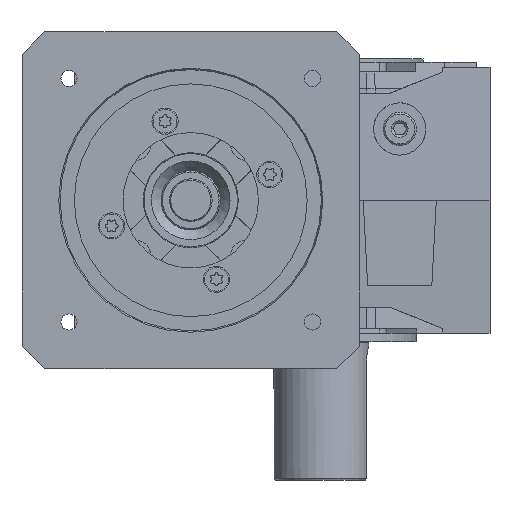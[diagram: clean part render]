
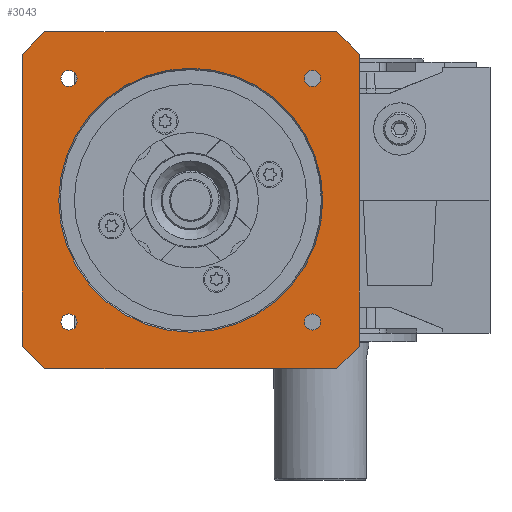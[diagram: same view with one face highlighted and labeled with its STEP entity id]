
A CAD part, left-side view. The second image highlights one B-rep face of the part: STEP entity #3043.
In plain terms, the highlighted planar face has unit normal (-1, 0, 0).
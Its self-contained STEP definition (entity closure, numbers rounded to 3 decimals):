
#3043 = ADVANCED_FACE( '', ( #6529, #6530, #6531, #6532, #6533, #6534 ), #6535, .T. );
#6529 = FACE_BOUND( '', #11230, .T. );
#6530 = FACE_BOUND( '', #11231, .T. );
#6531 = FACE_BOUND( '', #11232, .T. );
#6532 = FACE_BOUND( '', #11233, .T. );
#6533 = FACE_BOUND( '', #11234, .T. );
#6534 = FACE_OUTER_BOUND( '', #11235, .T. );
#6535 = PLANE( '', #11236 );
#11230 = EDGE_LOOP( '', ( #22420 ) );
#11231 = EDGE_LOOP( '', ( #22421 ) );
#11232 = EDGE_LOOP( '', ( #22422 ) );
#11233 = EDGE_LOOP( '', ( #22423 ) );
#11234 = EDGE_LOOP( '', ( #22424 ) );
#11235 = EDGE_LOOP( '', ( #22425, #22426, #22427, #22428, #22429, #22430, #22431, #22432 ) );
#11236 = AXIS2_PLACEMENT_3D( '', #22433, #22434, #22435 );
#22420 = ORIENTED_EDGE( '', *, *, #26584, .T. );
#22421 = ORIENTED_EDGE( '', *, *, #26615, .T. );
#22422 = ORIENTED_EDGE( '', *, *, #26616, .T. );
#22423 = ORIENTED_EDGE( '', *, *, #26617, .T. );
#22424 = ORIENTED_EDGE( '', *, *, #26591, .T. );
#22425 = ORIENTED_EDGE( '', *, *, #26618, .T. );
#22426 = ORIENTED_EDGE( '', *, *, #26619, .T. );
#22427 = ORIENTED_EDGE( '', *, *, #26620, .T. );
#22428 = ORIENTED_EDGE( '', *, *, #26621, .T. );
#22429 = ORIENTED_EDGE( '', *, *, #26622, .T. );
#22430 = ORIENTED_EDGE( '', *, *, #26623, .T. );
#22431 = ORIENTED_EDGE( '', *, *, #26624, .T. );
#22432 = ORIENTED_EDGE( '', *, *, #26625, .T. );
#22433 = CARTESIAN_POINT( '', ( -176., 125., -70. ) );
#22434 = DIRECTION( '', ( -1., 0., 0. ) );
#22435 = DIRECTION( '', ( 0., 0., 1. ) );
#26584 = EDGE_CURVE( '', #32252, #32252, #32253, .F. );
#26591 = EDGE_CURVE( '', #32266, #32266, #32267, .T. );
#26615 = EDGE_CURVE( '', #32304, #32304, #32305, .T. );
#26616 = EDGE_CURVE( '', #32306, #32306, #32307, .T. );
#26617 = EDGE_CURVE( '', #32308, #32308, #32309, .T. );
#26618 = EDGE_CURVE( '', #32310, #32311, #32312, .F. );
#26619 = EDGE_CURVE( '', #32311, #32313, #32314, .F. );
#26620 = EDGE_CURVE( '', #32313, #32315, #32316, .F. );
#26621 = EDGE_CURVE( '', #32315, #32317, #32318, .F. );
#26622 = EDGE_CURVE( '', #32317, #32319, #32320, .F. );
#26623 = EDGE_CURVE( '', #32319, #32321, #32322, .F. );
#26624 = EDGE_CURVE( '', #32321, #32323, #32324, .F. );
#26625 = EDGE_CURVE( '', #32323, #32310, #32325, .F. );
#32252 = VERTEX_POINT( '', #43398 );
#32253 = CIRCLE( '', #43399, 55.577 );
#32266 = VERTEX_POINT( '', #43412 );
#32267 = CIRCLE( '', #43413, 3.375 );
#32304 = VERTEX_POINT( '', #43467 );
#32305 = CIRCLE( '', #43468, 3.375 );
#32306 = VERTEX_POINT( '', #43469 );
#32307 = CIRCLE( '', #43470, 3.375 );
#32308 = VERTEX_POINT( '', #43471 );
#32309 = CIRCLE( '', #43472, 3.375 );
#32310 = VERTEX_POINT( '', #43473 );
#32311 = VERTEX_POINT( '', #43474 );
#32312 = LINE( '', #43475, #43476 );
#32313 = VERTEX_POINT( '', #43477 );
#32314 = LINE( '', #43478, #43479 );
#32315 = VERTEX_POINT( '', #43480 );
#32316 = LINE( '', #43481, #43482 );
#32317 = VERTEX_POINT( '', #43483 );
#32318 = LINE( '', #43484, #43485 );
#32319 = VERTEX_POINT( '', #43486 );
#32320 = LINE( '', #43487, #43488 );
#32321 = VERTEX_POINT( '', #43489 );
#32322 = LINE( '', #43490, #43491 );
#32323 = VERTEX_POINT( '', #43492 );
#32324 = LINE( '', #43493, #43494 );
#32325 = LINE( '', #43495, #43496 );
#43398 = CARTESIAN_POINT( '', ( -176., 55., 55.577 ) );
#43399 = AXIS2_PLACEMENT_3D( '', #49756, #49757, #49758 );
#43412 = CARTESIAN_POINT( '', ( -176., 109.64, -51.265 ) );
#43413 = AXIS2_PLACEMENT_3D( '', #49777, #49778, #49779 );
#43467 = CARTESIAN_POINT( '', ( -176., 106.265, 54.64 ) );
#43468 = AXIS2_PLACEMENT_3D( '', #49815, #49816, #49817 );
#43469 = CARTESIAN_POINT( '', ( -176., 0.36, 51.265 ) );
#43470 = AXIS2_PLACEMENT_3D( '', #49818, #49819, #49820 );
#43471 = CARTESIAN_POINT( '', ( -176., 3.735, -54.64 ) );
#43472 = AXIS2_PLACEMENT_3D( '', #49821, #49822, #49823 );
#43473 = CARTESIAN_POINT( '', ( -176., 126.048, 61.434 ) );
#43474 = CARTESIAN_POINT( '', ( -176., 126.048, -61.434 ) );
#43475 = CARTESIAN_POINT( '', ( -176., 126.048, -70. ) );
#43476 = VECTOR( '', #49824, 1000. );
#43477 = CARTESIAN_POINT( '', ( -176., 116.434, -71.048 ) );
#43478 = CARTESIAN_POINT( '', ( -176., 121.241, -66.241 ) );
#43479 = VECTOR( '', #49825, 1000. );
#43480 = CARTESIAN_POINT( '', ( -176., -6.434, -71.048 ) );
#43481 = CARTESIAN_POINT( '', ( -176., 125., -71.048 ) );
#43482 = VECTOR( '', #49826, 1000. );
#43483 = CARTESIAN_POINT( '', ( -176., -16.048, -61.434 ) );
#43484 = CARTESIAN_POINT( '', ( -176., 58.759, -136.241 ) );
#43485 = VECTOR( '', #49827, 1000. );
#43486 = CARTESIAN_POINT( '', ( -176., -16.048, 61.434 ) );
#43487 = CARTESIAN_POINT( '', ( -176., -16.048, -70. ) );
#43488 = VECTOR( '', #49828, 1000. );
#43489 = CARTESIAN_POINT( '', ( -176., -6.434, 71.048 ) );
#43490 = CARTESIAN_POINT( '', ( -176., -11.241, 66.241 ) );
#43491 = VECTOR( '', #49829, 1000. );
#43492 = CARTESIAN_POINT( '', ( -176., 116.434, 71.048 ) );
#43493 = CARTESIAN_POINT( '', ( -176., 125., 71.048 ) );
#43494 = VECTOR( '', #49830, 1000. );
#43495 = CARTESIAN_POINT( '', ( -176., 191.241, -3.759 ) );
#43496 = VECTOR( '', #49831, 1000. );
#49756 = CARTESIAN_POINT( '', ( -176., 55., 0. ) );
#49757 = DIRECTION( '', ( -1., 0., 0. ) );
#49758 = DIRECTION( '', ( 0., 0., 1. ) );
#49777 = CARTESIAN_POINT( '', ( -176., 106.265, -51.265 ) );
#49778 = DIRECTION( '', ( 1., 0., 0. ) );
#49779 = DIRECTION( '', ( 0., 1., 0. ) );
#49815 = CARTESIAN_POINT( '', ( -176., 106.265, 51.265 ) );
#49816 = DIRECTION( '', ( 1., 0., 0. ) );
#49817 = DIRECTION( '', ( 0., 0., 1. ) );
#49818 = CARTESIAN_POINT( '', ( -176., 3.735, 51.265 ) );
#49819 = DIRECTION( '', ( 1., 0., 0. ) );
#49820 = DIRECTION( '', ( 0., -1., 0. ) );
#49821 = CARTESIAN_POINT( '', ( -176., 3.735, -51.265 ) );
#49822 = DIRECTION( '', ( 1., 0., 0. ) );
#49823 = DIRECTION( '', ( 0., 0., -1. ) );
#49824 = DIRECTION( '', ( 0., 0., 1. ) );
#49825 = DIRECTION( '', ( 0., 0.707, 0.707 ) );
#49826 = DIRECTION( '', ( 0., 1., 0. ) );
#49827 = DIRECTION( '', ( 0., 0.707, -0.707 ) );
#49828 = DIRECTION( '', ( 0., 0., -1. ) );
#49829 = DIRECTION( '', ( 0., -0.707, -0.707 ) );
#49830 = DIRECTION( '', ( 0., -1., 0. ) );
#49831 = DIRECTION( '', ( 0., -0.707, 0.707 ) );
